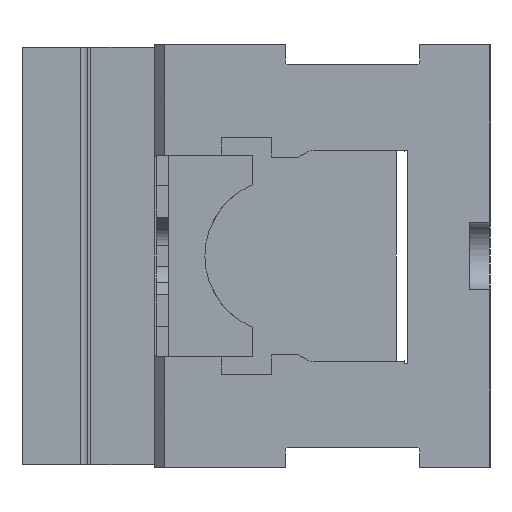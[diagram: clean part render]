
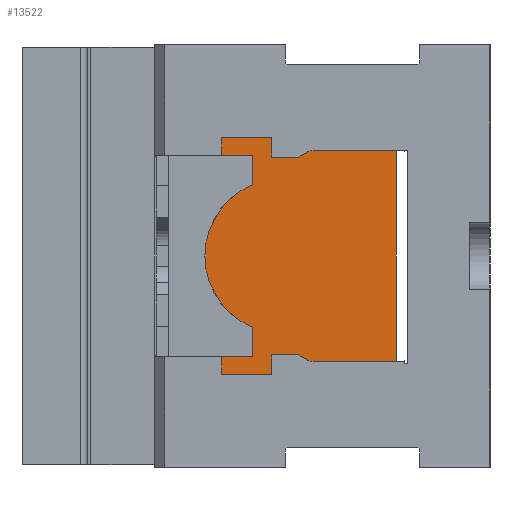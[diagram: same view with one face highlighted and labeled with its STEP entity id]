
A CAD part, left-side view. The second image highlights one B-rep face of the part: STEP entity #13522.
In plain terms, the highlighted planar face has unit normal (-1, 0, 0).
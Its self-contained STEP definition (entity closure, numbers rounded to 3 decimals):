
#12952=DIRECTION('',(0.,-1.,0.));
#12953=VECTOR('',#12952,72.);
#12954=CARTESIAN_POINT('',(402.,99.73,-57.));
#12955=LINE('',#12954,#12953);
#12964=DIRECTION('',(0.,0.,-1.));
#12965=VECTOR('',#12964,114.);
#12966=CARTESIAN_POINT('',(402.,27.73,57.));
#12967=LINE('',#12966,#12965);
#12968=DIRECTION('',(0.,0.,1.));
#12969=VECTOR('',#12968,114.);
#12970=CARTESIAN_POINT('',(402.,99.73,-57.));
#12971=LINE('',#12970,#12969);
#12980=DIRECTION('',(0.,1.,0.));
#12981=VECTOR('',#12980,72.);
#12982=CARTESIAN_POINT('',(402.,27.73,57.));
#12983=LINE('',#12982,#12981);
#13484=CARTESIAN_POINT('',(402.,99.73,-57.));
#13485=CARTESIAN_POINT('',(402.,27.73,-57.));
#13486=VERTEX_POINT('',#13484);
#13487=VERTEX_POINT('',#13485);
#13488=CARTESIAN_POINT('',(402.,27.73,57.));
#13489=CARTESIAN_POINT('',(402.,99.73,57.));
#13490=VERTEX_POINT('',#13488);
#13491=VERTEX_POINT('',#13489);
#13508=CARTESIAN_POINT('',(402.,0.,0.));
#13509=DIRECTION('',(-1.,0.,0.));
#13510=DIRECTION('',(0.,0.,1.));
#13511=AXIS2_PLACEMENT_3D('',#13508,#13509,#13510);
#13512=PLANE('',#13511);
#13514=ORIENTED_EDGE('',*,*,#13513,.T.);
#13515=ORIENTED_EDGE('',*,*,#13497,.F.);
#13517=ORIENTED_EDGE('',*,*,#13516,.T.);
#13519=ORIENTED_EDGE('',*,*,#13518,.F.);
#13520=EDGE_LOOP('',(#13514,#13515,#13517,#13519));
#13521=FACE_OUTER_BOUND('',#13520,.F.);
#13522=ADVANCED_FACE('',(#13521),#13512,.T.);
#13497=EDGE_CURVE('',#13486,#13487,#12955,.T.);
#13513=EDGE_CURVE('',#13490,#13487,#12967,.T.);
#13516=EDGE_CURVE('',#13486,#13491,#12971,.T.);
#13518=EDGE_CURVE('',#13490,#13491,#12983,.T.);
